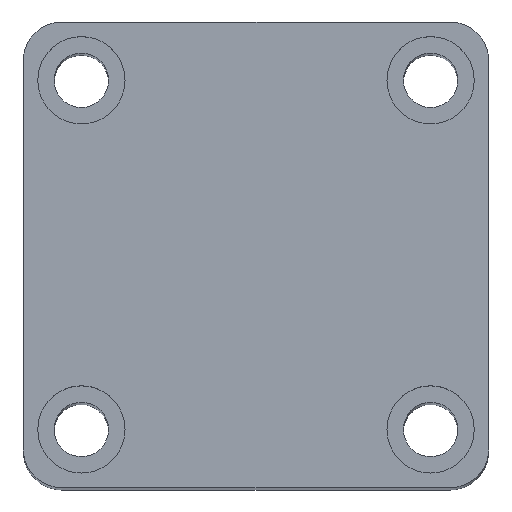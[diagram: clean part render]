
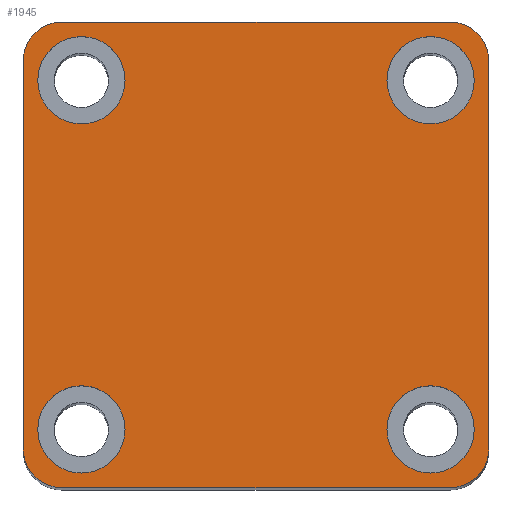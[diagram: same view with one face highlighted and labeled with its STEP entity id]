
A CAD part, top view. The second image highlights one B-rep face of the part: STEP entity #1945.
In plain terms, the highlighted planar face has unit normal (0, 0, 1).
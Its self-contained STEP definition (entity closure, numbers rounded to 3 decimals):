
#3 = ORIENTED_EDGE ( 'NONE', *, *, #585, .F. ) ;
#4 = ORIENTED_EDGE ( 'NONE', *, *, #535, .F. ) ;
#180 = FACE_BOUND ( 'NONE', #1368, .T. ) ;
#181 = FACE_BOUND ( 'NONE', #1404, .T. ) ;
#184 = FACE_BOUND ( 'NONE', #1353, .T. ) ;
#188 = FACE_BOUND ( 'NONE', #1367, .T. ) ;
#194 = FACE_OUTER_BOUND ( 'NONE', #1405, .T. ) ;
#428 = CIRCLE ( 'NONE', #798, 4. ) ;
#429 = CIRCLE ( 'NONE', #820, 4. ) ;
#430 = CIRCLE ( 'NONE', #838, 4. ) ;
#431 = CIRCLE ( 'NONE', #839, 4. ) ;
#432 = CIRCLE ( 'NONE', #840, 4.5 ) ;
#433 = CIRCLE ( 'NONE', #841, 4.5 ) ;
#434 = CIRCLE ( 'NONE', #842, 4.5 ) ;
#436 = CIRCLE ( 'NONE', #843, 4.5 ) ;
#441 = VECTOR ( 'NONE', #1760, 1000. ) ;
#444 = LINE ( 'NONE', #1761, #441 ) ;
#449 = LINE ( 'NONE', #1777, #457 ) ;
#451 = LINE ( 'NONE', #1768, #455 ) ;
#455 = VECTOR ( 'NONE', #1767, 1000. ) ;
#457 = VECTOR ( 'NONE', #1774, 1000. ) ;
#464 = VECTOR ( 'NONE', #1824, 1000. ) ;
#479 = LINE ( 'NONE', #1801, #464 ) ;
#527 = EDGE_CURVE ( 'NONE', #1483, #1475, #1048, .T. ) ;
#531 = EDGE_CURVE ( 'NONE', #1443, #1524, #1040, .T. ) ;
#535 = EDGE_CURVE ( 'NONE', #939, #1492, #1028, .T. ) ;
#539 = EDGE_CURVE ( 'NONE', #1489, #1508, #1017, .T. ) ;
#567 = EDGE_CURVE ( 'NONE', #1461, #1462, #479, .T. ) ;
#573 = EDGE_CURVE ( 'NONE', #1501, #1471, #449, .T. ) ;
#575 = EDGE_CURVE ( 'NONE', #1507, #1454, #451, .T. ) ;
#579 = EDGE_CURVE ( 'NONE', #1447, #1456, #444, .T. ) ;
#583 = EDGE_CURVE ( 'NONE', #1475, #1483, #436, .T. ) ;
#584 = EDGE_CURVE ( 'NONE', #1524, #1443, #434, .T. ) ;
#585 = EDGE_CURVE ( 'NONE', #1492, #939, #433, .T. ) ;
#586 = EDGE_CURVE ( 'NONE', #1508, #1489, #432, .T. ) ;
#587 = EDGE_CURVE ( 'NONE', #1471, #1507, #431, .T. ) ;
#588 = EDGE_CURVE ( 'NONE', #1454, #1447, #430, .T. ) ;
#589 = EDGE_CURVE ( 'NONE', #1456, #1461, #429, .T. ) ;
#590 = EDGE_CURVE ( 'NONE', #1462, #1501, #428, .T. ) ;
#727 = AXIS2_PLACEMENT_3D ( 'NONE', #2192, #2190, #2183 ) ;
#798 = AXIS2_PLACEMENT_3D ( 'NONE', #1724, #1723, #1722 ) ;
#820 = AXIS2_PLACEMENT_3D ( 'NONE', #1728, #1727, #1725 ) ;
#838 = AXIS2_PLACEMENT_3D ( 'NONE', #1733, #1732, #1731 ) ;
#839 = AXIS2_PLACEMENT_3D ( 'NONE', #1736, #1735, #1734 ) ;
#840 = AXIS2_PLACEMENT_3D ( 'NONE', #1739, #1738, #1737 ) ;
#841 = AXIS2_PLACEMENT_3D ( 'NONE', #1742, #1741, #1740 ) ;
#842 = AXIS2_PLACEMENT_3D ( 'NONE', #1746, #1745, #1743 ) ;
#843 = AXIS2_PLACEMENT_3D ( 'NONE', #1749, #1748, #1747 ) ;
#862 = AXIS2_PLACEMENT_3D ( 'NONE', #1698, #1697, #1696 ) ;
#864 = AXIS2_PLACEMENT_3D ( 'NONE', #1744, #1730, #1729 ) ;
#866 = AXIS2_PLACEMENT_3D ( 'NONE', #1776, #1775, #1769 ) ;
#868 = AXIS2_PLACEMENT_3D ( 'NONE', #1795, #1794, #1793 ) ;
#939 = VERTEX_POINT ( 'NONE', #2538 ) ;
#954 = ORIENTED_EDGE ( 'NONE', *, *, #583, .F. ) ;
#955 = ORIENTED_EDGE ( 'NONE', *, *, #567, .T. ) ;
#958 = ORIENTED_EDGE ( 'NONE', *, *, #589, .T. ) ;
#962 = ORIENTED_EDGE ( 'NONE', *, *, #590, .T. ) ;
#965 = ORIENTED_EDGE ( 'NONE', *, *, #584, .F. ) ;
#968 = ORIENTED_EDGE ( 'NONE', *, *, #588, .T. ) ;
#971 = ORIENTED_EDGE ( 'NONE', *, *, #579, .T. ) ;
#1017 = CIRCLE ( 'NONE', #862, 4.5 ) ;
#1028 = CIRCLE ( 'NONE', #864, 4.5 ) ;
#1040 = CIRCLE ( 'NONE', #866, 4.5 ) ;
#1048 = CIRCLE ( 'NONE', #868, 4.5 ) ;
#1077 = ORIENTED_EDGE ( 'NONE', *, *, #573, .T. ) ;
#1101 = ORIENTED_EDGE ( 'NONE', *, *, #575, .T. ) ;
#1231 = ORIENTED_EDGE ( 'NONE', *, *, #527, .F. ) ;
#1241 = ORIENTED_EDGE ( 'NONE', *, *, #531, .F. ) ;
#1249 = ORIENTED_EDGE ( 'NONE', *, *, #539, .F. ) ;
#1253 = ORIENTED_EDGE ( 'NONE', *, *, #586, .F. ) ;
#1259 = ORIENTED_EDGE ( 'NONE', *, *, #587, .T. ) ;
#1353 = EDGE_LOOP ( 'NONE', ( #3, #4 ) ) ;
#1367 = EDGE_LOOP ( 'NONE', ( #954, #1231 ) ) ;
#1368 = EDGE_LOOP ( 'NONE', ( #965, #1241 ) ) ;
#1404 = EDGE_LOOP ( 'NONE', ( #1253, #1249 ) ) ;
#1405 = EDGE_LOOP ( 'NONE', ( #1077, #1259, #1101, #968, #971, #958, #955, #962 ) ) ;
#1443 = VERTEX_POINT ( 'NONE', #2522 ) ;
#1447 = VERTEX_POINT ( 'NONE', #2525 ) ;
#1454 = VERTEX_POINT ( 'NONE', #2510 ) ;
#1456 = VERTEX_POINT ( 'NONE', #2508 ) ;
#1461 = VERTEX_POINT ( 'NONE', #2498 ) ;
#1462 = VERTEX_POINT ( 'NONE', #2497 ) ;
#1471 = VERTEX_POINT ( 'NONE', #2486 ) ;
#1475 = VERTEX_POINT ( 'NONE', #2481 ) ;
#1483 = VERTEX_POINT ( 'NONE', #2472 ) ;
#1489 = VERTEX_POINT ( 'NONE', #2460 ) ;
#1492 = VERTEX_POINT ( 'NONE', #2457 ) ;
#1501 = VERTEX_POINT ( 'NONE', #2446 ) ;
#1507 = VERTEX_POINT ( 'NONE', #2439 ) ;
#1508 = VERTEX_POINT ( 'NONE', #2438 ) ;
#1524 = VERTEX_POINT ( 'NONE', #2415 ) ;
#1696 = DIRECTION ( 'NONE',  ( 1., 0., 0. ) ) ;
#1697 = DIRECTION ( 'NONE',  ( 0., 0., 1. ) ) ;
#1698 = CARTESIAN_POINT ( 'NONE',  ( 18., -18., 140. ) ) ;
#1722 = DIRECTION ( 'NONE',  ( 1., 0., 0. ) ) ;
#1723 = DIRECTION ( 'NONE',  ( 0., 0., 1. ) ) ;
#1724 = CARTESIAN_POINT ( 'NONE',  ( 20., 20., 140. ) ) ;
#1725 = DIRECTION ( 'NONE',  ( 1., 0., 0. ) ) ;
#1727 = DIRECTION ( 'NONE',  ( 0., 0., 1. ) ) ;
#1728 = CARTESIAN_POINT ( 'NONE',  ( 20., -20., 140. ) ) ;
#1729 = DIRECTION ( 'NONE',  ( 1., 0., 0. ) ) ;
#1730 = DIRECTION ( 'NONE',  ( 0., 0., 1. ) ) ;
#1731 = DIRECTION ( 'NONE',  ( 1., 0., 0. ) ) ;
#1732 = DIRECTION ( 'NONE',  ( 0., 0., 1. ) ) ;
#1733 = CARTESIAN_POINT ( 'NONE',  ( -20., -20., 140. ) ) ;
#1734 = DIRECTION ( 'NONE',  ( 1., 0., 0. ) ) ;
#1735 = DIRECTION ( 'NONE',  ( 0., 0., 1. ) ) ;
#1736 = CARTESIAN_POINT ( 'NONE',  ( -20., 20., 140. ) ) ;
#1737 = DIRECTION ( 'NONE',  ( 1., 0., 0. ) ) ;
#1738 = DIRECTION ( 'NONE',  ( 0., 0., 1. ) ) ;
#1739 = CARTESIAN_POINT ( 'NONE',  ( 18., -18., 140. ) ) ;
#1740 = DIRECTION ( 'NONE',  ( 1., 0., 0. ) ) ;
#1741 = DIRECTION ( 'NONE',  ( 0., 0., 1. ) ) ;
#1742 = CARTESIAN_POINT ( 'NONE',  ( -18., -18., 140. ) ) ;
#1743 = DIRECTION ( 'NONE',  ( 1., 0., 0. ) ) ;
#1744 = CARTESIAN_POINT ( 'NONE',  ( -18., -18., 140. ) ) ;
#1745 = DIRECTION ( 'NONE',  ( 0., 0., 1. ) ) ;
#1746 = CARTESIAN_POINT ( 'NONE',  ( 18., 18., 140. ) ) ;
#1747 = DIRECTION ( 'NONE',  ( 1., 0., 0. ) ) ;
#1748 = DIRECTION ( 'NONE',  ( 0., 0., 1. ) ) ;
#1749 = CARTESIAN_POINT ( 'NONE',  ( -18., 18., 140. ) ) ;
#1760 = DIRECTION ( 'NONE',  ( 1., 0., 0. ) ) ;
#1761 = CARTESIAN_POINT ( 'NONE',  ( -24., -24., 140. ) ) ;
#1767 = DIRECTION ( 'NONE',  ( 0., -1., 0. ) ) ;
#1768 = CARTESIAN_POINT ( 'NONE',  ( -24., 24., 140. ) ) ;
#1769 = DIRECTION ( 'NONE',  ( 1., 0., 0. ) ) ;
#1774 = DIRECTION ( 'NONE',  ( -1., 0., 0. ) ) ;
#1775 = DIRECTION ( 'NONE',  ( 0., 0., 1. ) ) ;
#1776 = CARTESIAN_POINT ( 'NONE',  ( 18., 18., 140. ) ) ;
#1777 = CARTESIAN_POINT ( 'NONE',  ( -24., 24., 140. ) ) ;
#1793 = DIRECTION ( 'NONE',  ( 1., 0., 0. ) ) ;
#1794 = DIRECTION ( 'NONE',  ( 0., 0., 1. ) ) ;
#1795 = CARTESIAN_POINT ( 'NONE',  ( -18., 18., 140. ) ) ;
#1801 = CARTESIAN_POINT ( 'NONE',  ( 24., 24., 140. ) ) ;
#1824 = DIRECTION ( 'NONE',  ( 0., 1., 0. ) ) ;
#1945 = ADVANCED_FACE ( 'NONE', ( #188, #180, #184, #181, #194 ), #2187, .T. ) ;
#2183 = DIRECTION ( 'NONE',  ( 1., 0., 0. ) ) ;
#2187 = PLANE ( 'NONE',  #727 ) ;
#2190 = DIRECTION ( 'NONE',  ( 0., 0., 1. ) ) ;
#2192 = CARTESIAN_POINT ( 'NONE',  ( 0., 0., 140. ) ) ;
#2415 = CARTESIAN_POINT ( 'NONE',  ( 22.5, 18., 140. ) ) ;
#2438 = CARTESIAN_POINT ( 'NONE',  ( 22.5, -18., 140. ) ) ;
#2439 = CARTESIAN_POINT ( 'NONE',  ( -24., 20., 140. ) ) ;
#2446 = CARTESIAN_POINT ( 'NONE',  ( 20., 24., 140. ) ) ;
#2457 = CARTESIAN_POINT ( 'NONE',  ( -13.5, -18., 140. ) ) ;
#2460 = CARTESIAN_POINT ( 'NONE',  ( 13.5, -18., 140. ) ) ;
#2472 = CARTESIAN_POINT ( 'NONE',  ( -22.5, 18., 140. ) ) ;
#2481 = CARTESIAN_POINT ( 'NONE',  ( -13.5, 18., 140. ) ) ;
#2486 = CARTESIAN_POINT ( 'NONE',  ( -20., 24., 140. ) ) ;
#2497 = CARTESIAN_POINT ( 'NONE',  ( 24., 20., 140. ) ) ;
#2498 = CARTESIAN_POINT ( 'NONE',  ( 24., -20., 140. ) ) ;
#2508 = CARTESIAN_POINT ( 'NONE',  ( 20., -24., 140. ) ) ;
#2510 = CARTESIAN_POINT ( 'NONE',  ( -24., -20., 140. ) ) ;
#2522 = CARTESIAN_POINT ( 'NONE',  ( 13.5, 18., 140. ) ) ;
#2525 = CARTESIAN_POINT ( 'NONE',  ( -20., -24., 140. ) ) ;
#2538 = CARTESIAN_POINT ( 'NONE',  ( -22.5, -18., 140. ) ) ;
